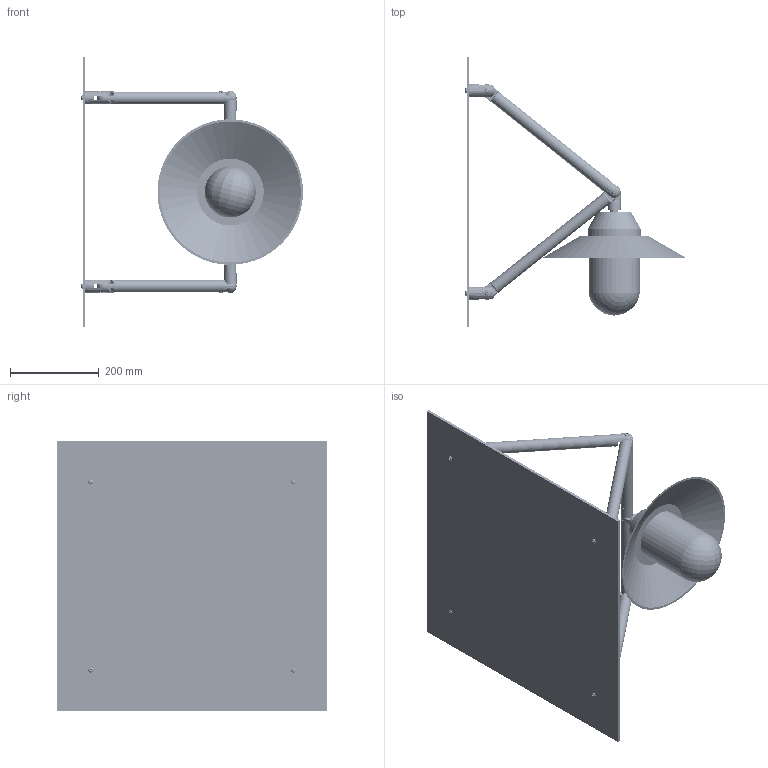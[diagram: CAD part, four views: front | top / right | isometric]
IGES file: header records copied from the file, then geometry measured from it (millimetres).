
Start section: SolidWorks IGES file using analytic representation for surfaces
Global section: file name: \\SERVER3\Design\_New Design Drive Folder List\_Design Vault\AAI\Modular Round Tube Connectors\Solidworks Models\Demonstrations\35. The Boom\The Boom Assembly.IGS; native system: SolidWorks 2013; preprocessor: SolidWorks 2013; author: tbraun; date: 140117.155153; units: inch
Bounding box: 500.67 x 609.6 x 609.6 mm (x, y, z)
Surface area: 1543310.9 mm2 (no closed solid volume)
Topology: 0 solids, 0 shells, 2182 faces, 30457 edges, 30431 vertices
Faces by surface type: revolution 1729, bspline 453
